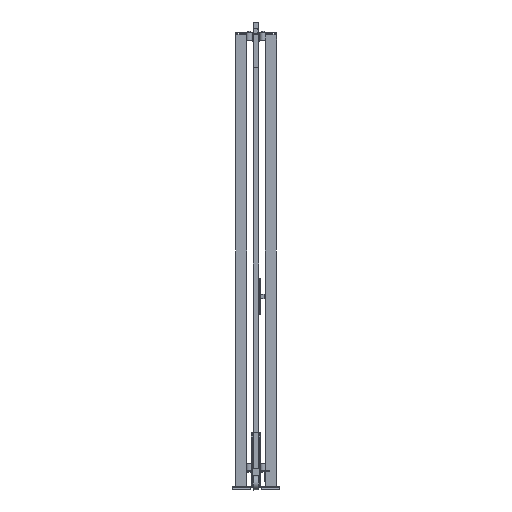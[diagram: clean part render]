
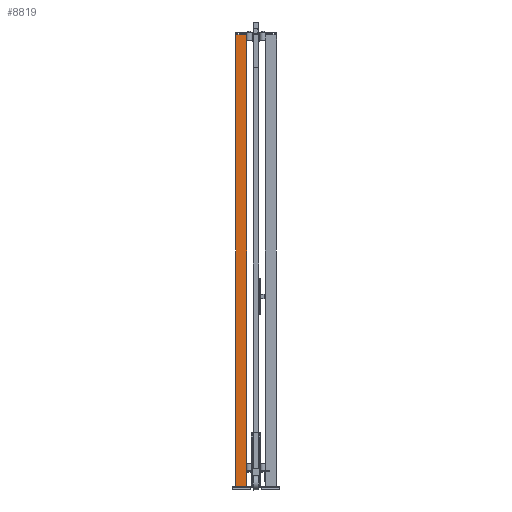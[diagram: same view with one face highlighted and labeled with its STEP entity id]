
A CAD part, left-side view. The second image highlights one B-rep face of the part: STEP entity #8819.
In plain terms, the highlighted planar face has unit normal (-1, 0, 0) as drawn and (0, 1, 0) by its records, which use the part's own axes.
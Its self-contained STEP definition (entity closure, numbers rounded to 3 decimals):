
#851=FACE_OUTER_BOUND('',#1511,.T.);
#1511=EDGE_LOOP('',(#5289,#5290,#5291,#5292));
#2238=VERTEX_POINT('',#17840);
#2239=VERTEX_POINT('',#17842);
#2241=VERTEX_POINT('',#17848);
#2244=VERTEX_POINT('',#17853);
#3474=EDGE_CURVE('',#2238,#2239,#10118,.T.);
#3480=EDGE_CURVE('',#2244,#2241,#10124,.T.);
#3483=EDGE_CURVE('',#2239,#2244,#10127,.T.);
#3484=EDGE_CURVE('',#2238,#2241,#10128,.T.);
#5289=ORIENTED_EDGE('',*,*,#3484,.T.);
#5290=ORIENTED_EDGE('',*,*,#3480,.F.);
#5291=ORIENTED_EDGE('',*,*,#3483,.F.);
#5292=ORIENTED_EDGE('',*,*,#3474,.F.);
#8227=PLANE('',#13015);
#8819=ADVANCED_FACE('',(#851),#8227,.F.);
#10118=LINE('',#17843,#11636);
#10124=LINE('',#17855,#11642);
#10127=LINE('',#17860,#11645);
#10128=LINE('',#17862,#11646);
#11636=VECTOR('',#14223,1.);
#11642=VECTOR('',#14231,1.);
#11645=VECTOR('',#14238,1.);
#11646=VECTOR('',#14241,1.);
#13015=AXIS2_PLACEMENT_3D('',#17861,#14239,#14240);
#14223=DIRECTION('',(-1.,0.,0.));
#14231=DIRECTION('',(1.,0.,0.));
#14238=DIRECTION('',(0.,0.,-1.));
#14239=DIRECTION('center_axis',(0.,-1.,0.));
#14240=DIRECTION('ref_axis',(0.,0.,-1.));
#14241=DIRECTION('',(0.,0.,-1.));
#17840=CARTESIAN_POINT('',(30.,30.,2520.));
#17842=CARTESIAN_POINT('',(-30.,30.,2520.));
#17843=CARTESIAN_POINT('',(0.,30.,2520.));
#17848=CARTESIAN_POINT('',(30.,30.,20.));
#17853=CARTESIAN_POINT('',(-30.,30.,20.));
#17855=CARTESIAN_POINT('',(0.,30.,20.));
#17860=CARTESIAN_POINT('',(-30.,30.,1270.));
#17861=CARTESIAN_POINT('Origin',(0.,30.,
1270.));
#17862=CARTESIAN_POINT('',(30.,30.,1270.));
